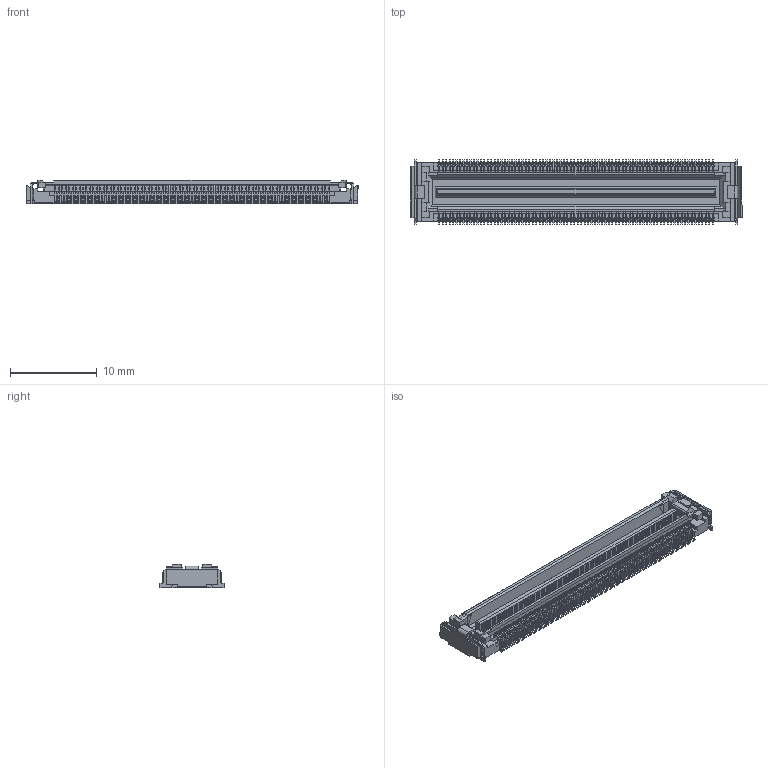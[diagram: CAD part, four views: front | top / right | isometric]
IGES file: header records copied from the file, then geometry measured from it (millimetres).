
Start section: Elysium IGES Interface
Global section: file name: 134H\\Honsha3\ko_gi\登録\KONEGI\63期\第三技術部\設計共有\DUSxx-xxxS-3\量産開発\3D\客先提出用3D\P3E548_DUS00-080S-T\P3E548_DUS00-160S-T.igs; native system: Creo Elements/Direct Modeling 20.6  25-Mar-2023; preprocessor: Creo Element/Direct IGES_3D V2.2; author: Unknown; organization: Unknown; date: 20241017.130127; units: millimetre
Bounding box: 38.38 x 7.4 x 2.71 mm (x, y, z)
Volume: 330.3 mm3; surface area: 1338.9 mm2
Topology: 1 solids, 1 shells, 7284 faces, 20372 edges, 12932 vertices
Faces by surface type: bspline 7284
